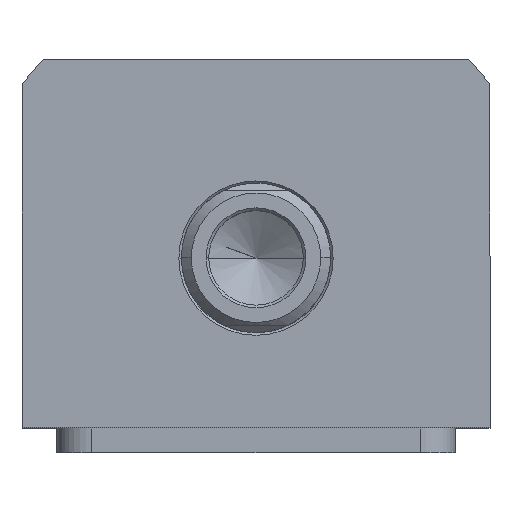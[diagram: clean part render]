
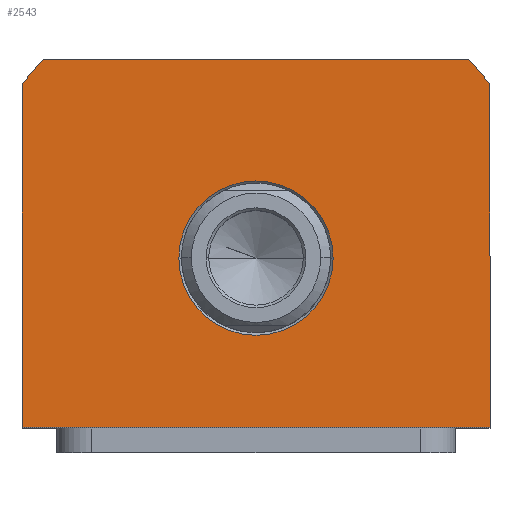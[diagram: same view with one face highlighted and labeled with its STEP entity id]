
A CAD part, top view. The second image highlights one B-rep face of the part: STEP entity #2543.
In plain terms, the highlighted planar face has unit normal (0, 0, 1).
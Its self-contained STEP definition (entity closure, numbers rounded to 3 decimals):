
#9 = VECTOR ( 'NONE', #1351, 1000. ) ;
#146 = DIRECTION ( 'NONE',  ( 1., 0., 0. ) ) ;
#244 = LINE ( 'NONE', #9849, #11309 ) ;
#379 = DIRECTION ( 'NONE',  ( 0., 0., 1. ) ) ;
#388 = CARTESIAN_POINT ( 'NONE',  ( 42.688, 40., 52.5 ) ) ;
#392 = EDGE_CURVE ( 'NONE', #3943, #5958, #718, .T. ) ;
#430 = LINE ( 'NONE', #997, #6364 ) ;
#550 = ORIENTED_EDGE ( 'NONE', *, *, #2780, .T. ) ;
#635 = CARTESIAN_POINT ( 'NONE',  ( 0., 0., 52.5 ) ) ;
#718 = CIRCLE ( 'NONE', #3642, 58.5 ) ;
#997 = CARTESIAN_POINT ( 'NONE',  ( 47., -34., 52.5 ) ) ;
#1257 = DIRECTION ( 'NONE',  ( 0., 0., 1. ) ) ;
#1351 = DIRECTION ( 'NONE',  ( -1., 0., 0. ) ) ;
#1375 = CARTESIAN_POINT ( 'NONE',  ( -42.688, 40., 52.5 ) ) ;
#1415 = LINE ( 'NONE', #4803, #4437 ) ;
#1690 = FACE_OUTER_BOUND ( 'NONE', #2559, .T. ) ;
#2284 = DIRECTION ( 'NONE',  ( 0., 0., -1. ) ) ;
#2339 = AXIS2_PLACEMENT_3D ( 'NONE', #4084, #379, #8647 ) ;
#2368 = CARTESIAN_POINT ( 'NONE',  ( -47., 34.832, 52.5 ) ) ;
#2474 = DIRECTION ( 'NONE',  ( 0., 1., 0. ) ) ;
#2531 = DIRECTION ( 'NONE',  ( 1., 0., 0. ) ) ;
#2543 = ADVANCED_FACE ( 'NONE', ( #7527, #1690 ), #3539, .T. ) ;
#2559 = EDGE_LOOP ( 'NONE', ( #7155, #10663, #8202, #7836, #9218, #550 ) ) ;
#2780 = EDGE_CURVE ( 'NONE', #5958, #10060, #1415, .T. ) ;
#3052 = CARTESIAN_POINT ( 'NONE',  ( 0., 0., 52.5 ) ) ;
#3145 = CARTESIAN_POINT ( 'NONE',  ( -15.5, 0., 52.5 ) ) ;
#3539 = PLANE ( 'NONE',  #6625 ) ;
#3593 = EDGE_CURVE ( 'NONE', #3783, #7138, #9733, .T. ) ;
#3642 = AXIS2_PLACEMENT_3D ( 'NONE', #3052, #1257, #3962 ) ;
#3783 = VERTEX_POINT ( 'NONE', #11297 ) ;
#3943 = VERTEX_POINT ( 'NONE', #1375 ) ;
#3962 = DIRECTION ( 'NONE',  ( 1., 0., 0. ) ) ;
#3987 = DIRECTION ( 'NONE',  ( 0., 0., -1. ) ) ;
#4084 = CARTESIAN_POINT ( 'NONE',  ( 0., 0., 52.5 ) ) ;
#4345 = DIRECTION ( 'NONE',  ( 0., 0., 1. ) ) ;
#4437 = VECTOR ( 'NONE', #10358, 1000. ) ;
#4598 = EDGE_CURVE ( 'NONE', #5840, #5359, #244, .T. ) ;
#4679 = DIRECTION ( 'NONE',  ( 1., 0., 0. ) ) ;
#4803 = CARTESIAN_POINT ( 'NONE',  ( -47., -34., 52.5 ) ) ;
#4815 = DIRECTION ( 'NONE',  ( 1., 0., 0. ) ) ;
#5359 = VERTEX_POINT ( 'NONE', #5403 ) ;
#5403 = CARTESIAN_POINT ( 'NONE',  ( 47., 34.832, 52.5 ) ) ;
#5410 = EDGE_CURVE ( 'NONE', #10060, #5840, #430, .T. ) ;
#5654 = LINE ( 'NONE', #8643, #9 ) ;
#5825 = VERTEX_POINT ( 'NONE', #388 ) ;
#5840 = VERTEX_POINT ( 'NONE', #6956 ) ;
#5958 = VERTEX_POINT ( 'NONE', #2368 ) ;
#6058 = AXIS2_PLACEMENT_3D ( 'NONE', #7837, #2284, #146 ) ;
#6240 = EDGE_LOOP ( 'NONE', ( #7823, #8973 ) ) ;
#6364 = VECTOR ( 'NONE', #4679, 1000. ) ;
#6625 = AXIS2_PLACEMENT_3D ( 'NONE', #635, #4345, #2531 ) ;
#6956 = CARTESIAN_POINT ( 'NONE',  ( 47., -34., 52.5 ) ) ;
#7138 = VERTEX_POINT ( 'NONE', #3145 ) ;
#7155 = ORIENTED_EDGE ( 'NONE', *, *, #5410, .T. ) ;
#7527 = FACE_BOUND ( 'NONE', #6240, .T. ) ;
#7571 = EDGE_CURVE ( 'NONE', #5825, #3943, #5654, .T. ) ;
#7649 = CIRCLE ( 'NONE', #2339, 58.5 ) ;
#7823 = ORIENTED_EDGE ( 'NONE', *, *, #3593, .T. ) ;
#7836 = ORIENTED_EDGE ( 'NONE', *, *, #7571, .T. ) ;
#7837 = CARTESIAN_POINT ( 'NONE',  ( 0., 0., 52.5 ) ) ;
#8202 = ORIENTED_EDGE ( 'NONE', *, *, #11077, .T. ) ;
#8573 = EDGE_CURVE ( 'NONE', #7138, #3783, #10629, .T. ) ;
#8643 = CARTESIAN_POINT ( 'NONE',  ( -42.688, 40., 52.5 ) ) ;
#8647 = DIRECTION ( 'NONE',  ( 1., 0., 0. ) ) ;
#8973 = ORIENTED_EDGE ( 'NONE', *, *, #8573, .T. ) ;
#9005 = CARTESIAN_POINT ( 'NONE',  ( -47., -34., 52.5 ) ) ;
#9218 = ORIENTED_EDGE ( 'NONE', *, *, #392, .T. ) ;
#9733 = CIRCLE ( 'NONE', #6058, 15.5 ) ;
#9849 = CARTESIAN_POINT ( 'NONE',  ( 47., 34.832, 52.5 ) ) ;
#10060 = VERTEX_POINT ( 'NONE', #9005 ) ;
#10294 = CARTESIAN_POINT ( 'NONE',  ( 0., 0., 52.5 ) ) ;
#10358 = DIRECTION ( 'NONE',  ( 0., -1., 0. ) ) ;
#10629 = CIRCLE ( 'NONE', #10861, 15.5 ) ;
#10663 = ORIENTED_EDGE ( 'NONE', *, *, #4598, .T. ) ;
#10861 = AXIS2_PLACEMENT_3D ( 'NONE', #10294, #3987, #4815 ) ;
#11077 = EDGE_CURVE ( 'NONE', #5359, #5825, #7649, .T. ) ;
#11297 = CARTESIAN_POINT ( 'NONE',  ( 15.5, 0., 52.5 ) ) ;
#11309 = VECTOR ( 'NONE', #2474, 1000. ) ;
